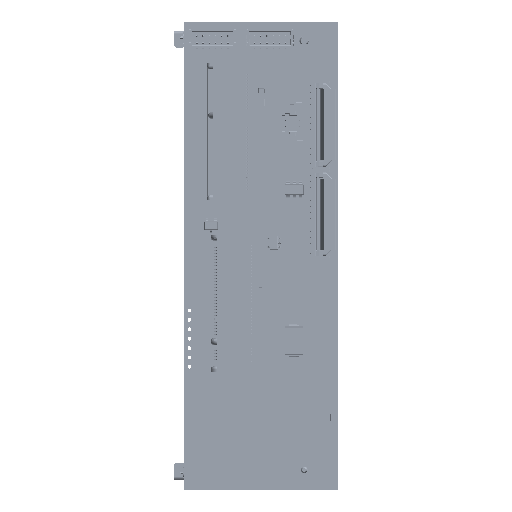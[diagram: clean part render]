
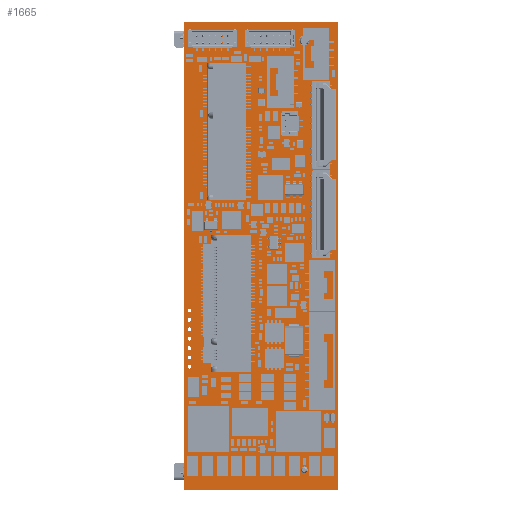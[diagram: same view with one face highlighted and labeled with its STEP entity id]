
A CAD part, top view. The second image highlights one B-rep face of the part: STEP entity #1665.
In plain terms, the highlighted planar face has unit normal (0, 0, 1).
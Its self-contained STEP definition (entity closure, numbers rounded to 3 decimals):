
#960 = VERTEX_POINT('',#961);
#961 = CARTESIAN_POINT('',(0.,0.,1.677));
#967 = EDGE_CURVE('',#960,#968,#970,.T.);
#968 = VERTEX_POINT('',#969);
#969 = CARTESIAN_POINT('',(0.,75.,1.677));
#970 = LINE('',#971,#972);
#971 = CARTESIAN_POINT('',(0.,0.,1.677));
#972 = VECTOR('',#973,1.);
#973 = DIRECTION('',(0.,1.,0.));
#998 = EDGE_CURVE('',#968,#999,#1001,.T.);
#999 = VERTEX_POINT('',#1000);
#1000 = CARTESIAN_POINT('',(24.7,75.,1.677));
#1001 = LINE('',#1002,#1003);
#1002 = CARTESIAN_POINT('',(0.,75.,1.677));
#1003 = VECTOR('',#1004,1.);
#1004 = DIRECTION('',(1.,0.,0.));
#1029 = EDGE_CURVE('',#999,#1030,#1032,.T.);
#1030 = VERTEX_POINT('',#1031);
#1031 = CARTESIAN_POINT('',(24.7,0.,1.677));
#1032 = LINE('',#1033,#1034);
#1033 = CARTESIAN_POINT('',(24.7,75.,1.677));
#1034 = VECTOR('',#1035,1.);
#1035 = DIRECTION('',(0.,-1.,0.));
#1060 = EDGE_CURVE('',#1030,#960,#1061,.T.);
#1061 = LINE('',#1062,#1063);
#1062 = CARTESIAN_POINT('',(24.7,0.,1.677));
#1063 = VECTOR('',#1064,1.);
#1064 = DIRECTION('',(-1.,0.,0.));
#1084 = VERTEX_POINT('',#1085);
#1085 = CARTESIAN_POINT('',(1.2,19.75,1.677));
#1091 = EDGE_CURVE('',#1084,#1084,#1092,.T.);
#1092 = CIRCLE('',#1093,0.3);
#1093 = AXIS2_PLACEMENT_3D('',#1094,#1095,#1096);
#1094 = CARTESIAN_POINT('',(0.9,19.75,1.677));
#1095 = DIRECTION('',(0.,0.,1.));
#1096 = DIRECTION('',(1.,0.,-0.));
#1117 = VERTEX_POINT('',#1118);
#1118 = CARTESIAN_POINT('',(1.2,21.25,1.677));
#1124 = EDGE_CURVE('',#1117,#1117,#1125,.T.);
#1125 = CIRCLE('',#1126,0.3);
#1126 = AXIS2_PLACEMENT_3D('',#1127,#1128,#1129);
#1127 = CARTESIAN_POINT('',(0.9,21.25,1.677));
#1128 = DIRECTION('',(0.,0.,1.));
#1129 = DIRECTION('',(1.,0.,-0.));
#1150 = VERTEX_POINT('',#1151);
#1151 = CARTESIAN_POINT('',(3.85,20.45,1.677));
#1157 = EDGE_CURVE('',#1150,#1150,#1158,.T.);
#1158 = CIRCLE('',#1159,0.1);
#1159 = AXIS2_PLACEMENT_3D('',#1160,#1161,#1162);
#1160 = CARTESIAN_POINT('',(3.75,20.45,1.677));
#1161 = DIRECTION('',(0.,0.,1.));
#1162 = DIRECTION('',(1.,0.,-0.));
#1183 = VERTEX_POINT('',#1184);
#1184 = CARTESIAN_POINT('',(1.2,22.75,1.677));
#1190 = EDGE_CURVE('',#1183,#1183,#1191,.T.);
#1191 = CIRCLE('',#1192,0.3);
#1192 = AXIS2_PLACEMENT_3D('',#1193,#1194,#1195);
#1193 = CARTESIAN_POINT('',(0.9,22.75,1.677));
#1194 = DIRECTION('',(0.,0.,1.));
#1195 = DIRECTION('',(1.,0.,-0.));
#1216 = VERTEX_POINT('',#1217);
#1217 = CARTESIAN_POINT('',(1.2,27.25,1.677));
#1223 = EDGE_CURVE('',#1216,#1216,#1224,.T.);
#1224 = CIRCLE('',#1225,0.3);
#1225 = AXIS2_PLACEMENT_3D('',#1226,#1227,#1228);
#1226 = CARTESIAN_POINT('',(0.9,27.25,1.677));
#1227 = DIRECTION('',(0.,0.,1.));
#1228 = DIRECTION('',(1.,0.,-0.));
#1249 = VERTEX_POINT('',#1250);
#1250 = CARTESIAN_POINT('',(1.2,28.75,1.677));
#1256 = EDGE_CURVE('',#1249,#1249,#1257,.T.);
#1257 = CIRCLE('',#1258,0.3);
#1258 = AXIS2_PLACEMENT_3D('',#1259,#1260,#1261);
#1259 = CARTESIAN_POINT('',(0.9,28.75,1.677));
#1260 = DIRECTION('',(0.,0.,1.));
#1261 = DIRECTION('',(1.,0.,-0.));
#1282 = VERTEX_POINT('',#1283);
#1283 = CARTESIAN_POINT('',(1.2,24.25,1.677));
#1289 = EDGE_CURVE('',#1282,#1282,#1290,.T.);
#1290 = CIRCLE('',#1291,0.3);
#1291 = AXIS2_PLACEMENT_3D('',#1292,#1293,#1294);
#1292 = CARTESIAN_POINT('',(0.9,24.25,1.677));
#1293 = DIRECTION('',(0.,0.,1.));
#1294 = DIRECTION('',(1.,0.,-0.));
#1315 = VERTEX_POINT('',#1316);
#1316 = CARTESIAN_POINT('',(1.2,25.75,1.677));
#1322 = EDGE_CURVE('',#1315,#1315,#1323,.T.);
#1323 = CIRCLE('',#1324,0.3);
#1324 = AXIS2_PLACEMENT_3D('',#1325,#1326,#1327);
#1325 = CARTESIAN_POINT('',(0.9,25.75,1.677));
#1326 = DIRECTION('',(0.,0.,1.));
#1327 = DIRECTION('',(1.,0.,-0.));
#1348 = VERTEX_POINT('',#1349);
#1349 = CARTESIAN_POINT('',(6.35,19.9,1.677));
#1355 = EDGE_CURVE('',#1348,#1348,#1356,.T.);
#1356 = CIRCLE('',#1357,0.8);
#1357 = AXIS2_PLACEMENT_3D('',#1358,#1359,#1360);
#1358 = CARTESIAN_POINT('',(5.55,19.9,1.677));
#1359 = DIRECTION('',(0.,0.,1.));
#1360 = DIRECTION('',(1.,0.,-0.));
#1381 = VERTEX_POINT('',#1382);
#1382 = CARTESIAN_POINT('',(6.1,39.9,1.677));
#1388 = EDGE_CURVE('',#1381,#1381,#1389,.T.);
#1389 = CIRCLE('',#1390,0.55);
#1390 = AXIS2_PLACEMENT_3D('',#1391,#1392,#1393);
#1391 = CARTESIAN_POINT('',(5.55,39.9,1.677));
#1392 = DIRECTION('',(0.,0.,1.));
#1393 = DIRECTION('',(1.,0.,-0.));
#1414 = VERTEX_POINT('',#1415);
#1415 = CARTESIAN_POINT('',(19.85,3.225,1.677));
#1421 = EDGE_CURVE('',#1414,#1414,#1422,.T.);
#1422 = CIRCLE('',#1423,0.55);
#1423 = AXIS2_PLACEMENT_3D('',#1424,#1425,#1426);
#1424 = CARTESIAN_POINT('',(19.3,3.225,1.677));
#1425 = DIRECTION('',(0.,0.,1.));
#1426 = DIRECTION('',(1.,0.,-0.));
#1447 = VERTEX_POINT('',#1448);
#1448 = CARTESIAN_POINT('',(6.35,47.4,1.677));
#1454 = EDGE_CURVE('',#1447,#1447,#1455,.T.);
#1455 = CIRCLE('',#1456,0.8);
#1456 = AXIS2_PLACEMENT_3D('',#1457,#1458,#1459);
#1457 = CARTESIAN_POINT('',(5.55,47.4,1.677));
#1458 = DIRECTION('',(0.,0.,1.));
#1459 = DIRECTION('',(1.,0.,-0.));
#1480 = VERTEX_POINT('',#1481);
#1481 = CARTESIAN_POINT('',(7.97,59.7,1.677));
#1487 = EDGE_CURVE('',#1480,#1480,#1488,.T.);
#1488 = CIRCLE('',#1489,0.47);
#1489 = AXIS2_PLACEMENT_3D('',#1490,#1491,#1492);
#1490 = CARTESIAN_POINT('',(7.5,59.7,1.677));
#1491 = DIRECTION('',(0.,0.,1.));
#1492 = DIRECTION('',(1.,0.,-0.));
#1513 = VERTEX_POINT('',#1514);
#1514 = CARTESIAN_POINT('',(6.1,67.4,1.677));
#1520 = EDGE_CURVE('',#1513,#1513,#1521,.T.);
#1521 = CIRCLE('',#1522,0.55);
#1522 = AXIS2_PLACEMENT_3D('',#1523,#1524,#1525);
#1523 = CARTESIAN_POINT('',(5.55,67.4,1.677));
#1524 = DIRECTION('',(0.,0.,1.));
#1525 = DIRECTION('',(1.,0.,-0.));
#1546 = VERTEX_POINT('',#1547);
#1547 = CARTESIAN_POINT('',(7.97,61.7,1.677));
#1553 = EDGE_CURVE('',#1546,#1546,#1554,.T.);
#1554 = CIRCLE('',#1555,0.47);
#1555 = AXIS2_PLACEMENT_3D('',#1556,#1557,#1558);
#1556 = CARTESIAN_POINT('',(7.5,61.7,1.677));
#1557 = DIRECTION('',(0.,0.,1.));
#1558 = DIRECTION('',(1.,0.,-0.));
#1579 = VERTEX_POINT('',#1580);
#1580 = CARTESIAN_POINT('',(20.1,72.025,1.677));
#1586 = EDGE_CURVE('',#1579,#1579,#1587,.T.);
#1587 = CIRCLE('',#1588,0.8);
#1588 = AXIS2_PLACEMENT_3D('',#1589,#1590,#1591);
#1589 = CARTESIAN_POINT('',(19.3,72.025,1.677));
#1590 = DIRECTION('',(0.,0.,1.));
#1591 = DIRECTION('',(1.,0.,-0.));
#1665 = ADVANCED_FACE('',(#1666,#1672,#1675,#1678,#1681,#1684,#1687,
    #1690,#1693,#1696,#1699,#1702,#1705,#1708,#1711,#1714,#1717),#1720,
  .F.);
#1666 = FACE_BOUND('',#1667,.F.);
#1667 = EDGE_LOOP('',(#1668,#1669,#1670,#1671));
#1668 = ORIENTED_EDGE('',*,*,#967,.T.);
#1669 = ORIENTED_EDGE('',*,*,#998,.T.);
#1670 = ORIENTED_EDGE('',*,*,#1029,.T.);
#1671 = ORIENTED_EDGE('',*,*,#1060,.T.);
#1672 = FACE_BOUND('',#1673,.F.);
#1673 = EDGE_LOOP('',(#1674));
#1674 = ORIENTED_EDGE('',*,*,#1091,.T.);
#1675 = FACE_BOUND('',#1676,.F.);
#1676 = EDGE_LOOP('',(#1677));
#1677 = ORIENTED_EDGE('',*,*,#1124,.T.);
#1678 = FACE_BOUND('',#1679,.F.);
#1679 = EDGE_LOOP('',(#1680));
#1680 = ORIENTED_EDGE('',*,*,#1157,.T.);
#1681 = FACE_BOUND('',#1682,.F.);
#1682 = EDGE_LOOP('',(#1683));
#1683 = ORIENTED_EDGE('',*,*,#1190,.T.);
#1684 = FACE_BOUND('',#1685,.F.);
#1685 = EDGE_LOOP('',(#1686));
#1686 = ORIENTED_EDGE('',*,*,#1223,.T.);
#1687 = FACE_BOUND('',#1688,.F.);
#1688 = EDGE_LOOP('',(#1689));
#1689 = ORIENTED_EDGE('',*,*,#1256,.T.);
#1690 = FACE_BOUND('',#1691,.F.);
#1691 = EDGE_LOOP('',(#1692));
#1692 = ORIENTED_EDGE('',*,*,#1289,.T.);
#1693 = FACE_BOUND('',#1694,.F.);
#1694 = EDGE_LOOP('',(#1695));
#1695 = ORIENTED_EDGE('',*,*,#1322,.T.);
#1696 = FACE_BOUND('',#1697,.F.);
#1697 = EDGE_LOOP('',(#1698));
#1698 = ORIENTED_EDGE('',*,*,#1355,.T.);
#1699 = FACE_BOUND('',#1700,.F.);
#1700 = EDGE_LOOP('',(#1701));
#1701 = ORIENTED_EDGE('',*,*,#1388,.T.);
#1702 = FACE_BOUND('',#1703,.F.);
#1703 = EDGE_LOOP('',(#1704));
#1704 = ORIENTED_EDGE('',*,*,#1421,.T.);
#1705 = FACE_BOUND('',#1706,.F.);
#1706 = EDGE_LOOP('',(#1707));
#1707 = ORIENTED_EDGE('',*,*,#1454,.T.);
#1708 = FACE_BOUND('',#1709,.F.);
#1709 = EDGE_LOOP('',(#1710));
#1710 = ORIENTED_EDGE('',*,*,#1487,.T.);
#1711 = FACE_BOUND('',#1712,.F.);
#1712 = EDGE_LOOP('',(#1713));
#1713 = ORIENTED_EDGE('',*,*,#1520,.T.);
#1714 = FACE_BOUND('',#1715,.F.);
#1715 = EDGE_LOOP('',(#1716));
#1716 = ORIENTED_EDGE('',*,*,#1553,.T.);
#1717 = FACE_BOUND('',#1718,.F.);
#1718 = EDGE_LOOP('',(#1719));
#1719 = ORIENTED_EDGE('',*,*,#1586,.T.);
#1720 = PLANE('',#1721);
#1721 = AXIS2_PLACEMENT_3D('',#1722,#1723,#1724);
#1722 = CARTESIAN_POINT('',(12.35,37.5,1.677));
#1723 = DIRECTION('',(-0.,-0.,-1.));
#1724 = DIRECTION('',(-1.,0.,0.));
